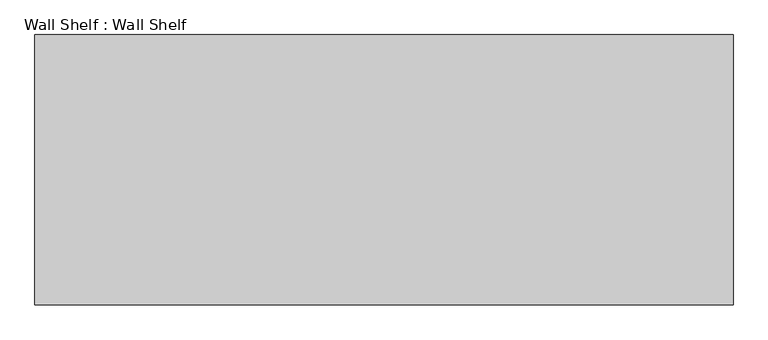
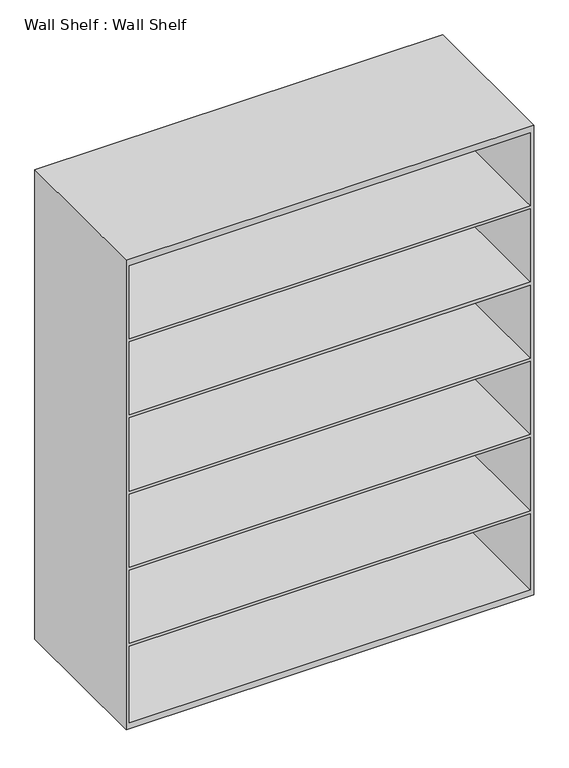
"""IFC4 building model written with IfcOpenShell, lengths in millimetres: furniture geometry, Wall Shelf : Wall Shelf."""

from ifc_helpers import new_model, si_unit, frame, origin, place, context, project, spatial, circle_curve, source, transform, mapped, element, save
from ifc_brep_helpers import plane_surface, cylinder_surface, advanced_brep


def wall_shelf_wall_shelf_2fd7ae0d(model_context):
    return source(origin(), model_context, "Body", "AdvancedBrep", [
        advanced_brep(
        [(787.4, 304.8, 1930.4), (-787.4, 304.8, 1930.4), (-787.4, -304.8, 1930.4), (787.4, -304.8, 1930.4), (774.7, -304.8, 1905.0), (-774.7, -304.8, 1905.0), (-774.7, 292.1, 1905.0), (774.7, 292.1, 1905.0), (787.4, 304.8, 38.1), (787.4, 304.8, 12.7), (-787.4, 304.8, 12.7), (-787.4, 304.8, 38.1), (-787.4, -304.8, 12.7), (787.4, -304.8, 12.7), (774.7, -304.8, 1606.55), (-774.7, -304.8, 1606.55), (774.7, -304.8, 38.1), (-774.7, -304.8, 38.1), (-774.7, -304.8, 349.25), (774.7, -304.8, 349.25), (-774.7, -304.8, 1593.85), (774.7, -304.8, 1593.85), (774.7, -304.8, 1295.4), (-774.7, -304.8, 1295.4), (-774.7, -304.8, 1282.7), (774.7, -304.8, 1282.7), (774.7, -304.8, 984.25), (-774.7, -304.8, 984.25), (-774.7, -304.8, 971.55), (774.7, -304.8, 971.55), (774.7, -304.8, 673.1), (-774.7, -304.8, 673.1), (-774.7, -304.8, 660.4), (774.7, -304.8, 660.4), (774.7, -304.8, 361.95), (-774.7, -304.8, 361.95), (-762.0, 254.0, 12.7), (-711.2, 254.0, 12.7), (711.2, 254.0, 12.7), (762.0, 254.0, 12.7), (-762.0, -254.0, 12.7), (-711.2, -254.0, 12.7), (711.2, -254.0, 12.7), (762.0, -254.0, 12.7), (-774.7, 292.1, 1606.55), (-774.7, 292.1, 1295.4), (-774.7, 292.1, 1593.85), (-774.7, 292.1, 984.25), (-774.7, 292.1, 1282.7), (-774.7, 292.1, 673.1), (-774.7, 292.1, 971.55), (-774.7, 292.1, 361.95), (-774.7, 292.1, 660.4), (-774.7, 292.1, 38.1), (-774.7, 292.1, 349.25), (774.7, 292.1, 1606.55), (774.7, 292.1, 1295.4), (774.7, 292.1, 1593.85), (774.7, 292.1, 984.25), (774.7, 292.1, 1282.7), (774.7, 292.1, 673.1), (774.7, 292.1, 971.55), (774.7, 292.1, 361.95), (774.7, 292.1, 660.4), (774.7, 292.1, 38.1), (774.7, 292.1, 349.25), (-762.0, 254.0, 0.0), (-711.2, 254.0, 0.0), (711.2, 254.0, 0.0), (762.0, 254.0, 0.0), (-762.0, -254.0, 0.0), (-711.2, -254.0, 0.0), (711.2, -254.0, 0.0), (762.0, -254.0, 0.0)],
        [
            (0, 1),
            (1, 2),
            (2, 3),
            (3, 0),
            (4, 5),
            (5, 6),
            (6, 7),
            (7, 4),
            (0, 8),
            (8, 9),
            (9, 10),
            (10, 11),
            (11, 1),
            (10, 12),
            (12, 2),
            (12, 13),
            (13, 3),
            (4, 14),
            (14, 15),
            (15, 5),
            (16, 17),
            (17, 18),
            (18, 19),
            (19, 16),
            (20, 21),
            (21, 22),
            (22, 23),
            (23, 20),
            (24, 25),
            (25, 26),
            (26, 27),
            (27, 24),
            (28, 29),
            (29, 30),
            (30, 31),
            (31, 28),
            (32, 33),
            (33, 34),
            (34, 35),
            (35, 32),
            (13, 9),
            (36, 37, circle_curve(frame((-736.6, 254.0, 12.7), z_axis=(0.0, 0.0, 1.0), x_axis=(1.0, 0.0, 0.0)), 25.4)),
            (37, 36, circle_curve(frame((-736.6, 254.0, 12.7), z_axis=(0.0, 0.0, 1.0), x_axis=(1.0, 0.0, 0.0)), 25.4)),
            (38, 39, circle_curve(frame((736.6, 254.0, 12.7), z_axis=(0.0, 0.0, 1.0), x_axis=(1.0, 0.0, 0.0)), 25.4)),
            (39, 38, circle_curve(frame((736.6, 254.0, 12.7), z_axis=(0.0, 0.0, 1.0), x_axis=(1.0, 0.0, 0.0)), 25.4)),
            (40, 41, circle_curve(frame((-736.6, -254.0, 12.7), z_axis=(0.0, 0.0, 1.0), x_axis=(1.0, 0.0, 0.0)), 25.4)),
            (41, 40, circle_curve(frame((-736.6, -254.0, 12.7), z_axis=(0.0, 0.0, 1.0), x_axis=(1.0, 0.0, 0.0)), 25.4)),
            (42, 43, circle_curve(frame((736.6, -254.0, 12.7), z_axis=(0.0, 0.0, 1.0), x_axis=(1.0, 0.0, 0.0)), 25.4)),
            (43, 42, circle_curve(frame((736.6, -254.0, 12.7), z_axis=(0.0, 0.0, 1.0), x_axis=(1.0, 0.0, 0.0)), 25.4)),
            (15, 44),
            (44, 6),
            (23, 45),
            (45, 46),
            (46, 20),
            (27, 47),
            (47, 48),
            (48, 24),
            (31, 49),
            (49, 50),
            (50, 28),
            (35, 51),
            (51, 52),
            (52, 32),
            (17, 53),
            (53, 54),
            (54, 18),
            (44, 55),
            (55, 7),
            (45, 56),
            (56, 57),
            (57, 46),
            (47, 58),
            (58, 59),
            (59, 48),
            (49, 60),
            (60, 61),
            (61, 50),
            (51, 62),
            (62, 63),
            (63, 52),
            (53, 64),
            (64, 65),
            (65, 54),
            (55, 14),
            (21, 57),
            (56, 22),
            (25, 59),
            (58, 26),
            (29, 61),
            (60, 30),
            (33, 63),
            (62, 34),
            (64, 16),
            (19, 65),
            (66, 67, circle_curve(frame((-736.6, 254.0, 0.0), z_axis=(0.0, 0.0, -1.0), x_axis=(1.0, 0.0, 0.0)), 25.4)),
            (67, 66, circle_curve(frame((-736.6, 254.0, 0.0), z_axis=(0.0, 0.0, -1.0), x_axis=(1.0, 0.0, 0.0)), 25.4)),
            (68, 69, circle_curve(frame((736.6, 254.0, 0.0), z_axis=(0.0, 0.0, -1.0), x_axis=(1.0, 0.0, 0.0)), 25.4)),
            (69, 68, circle_curve(frame((736.6, 254.0, 0.0), z_axis=(0.0, 0.0, -1.0), x_axis=(1.0, 0.0, 0.0)), 25.4)),
            (70, 71, circle_curve(frame((-736.6, -254.0, 0.0), z_axis=(0.0, 0.0, -1.0), x_axis=(1.0, 0.0, 0.0)), 25.4)),
            (71, 70, circle_curve(frame((-736.6, -254.0, 0.0), z_axis=(0.0, 0.0, -1.0), x_axis=(1.0, 0.0, 0.0)), 25.4)),
            (72, 73, circle_curve(frame((736.6, -254.0, 0.0), z_axis=(0.0, 0.0, -1.0), x_axis=(1.0, 0.0, 0.0)), 25.4)),
            (73, 72, circle_curve(frame((736.6, -254.0, 0.0), z_axis=(0.0, 0.0, -1.0), x_axis=(1.0, 0.0, 0.0)), 25.4)),
            (67, 37),
            (36, 66),
            (69, 39),
            (38, 68),
            (71, 41),
            (40, 70),
            (73, 43),
            (42, 72),
        ],
        [
            plane_surface(frame((-787.4, 304.8, 1930.4), z_axis=(0.0, 0.0, 1.0), x_axis=(-1.0, 0.0, 0.0))),
            plane_surface(frame((-787.4, 304.8, 1905.0), z_axis=(0.0, 0.0, -1.0), x_axis=(1.0, 0.0, 0.0))),
            plane_surface(frame((787.4, 304.8, 1930.4), z_axis=(0.0, 1.0, 0.0), x_axis=(0.0, 0.0, -1.0))),
            plane_surface(frame((-787.4, 304.8, 1930.4), z_axis=(-1.0, 0.0, 0.0), x_axis=(0.0, 0.0, -1.0))),
            plane_surface(frame((-787.4, -304.8, 1930.4), z_axis=(0.0, -1.0, 0.0), x_axis=(0.0, 0.0, -1.0))),
            plane_surface(frame((787.4, -304.8, 1930.4), z_axis=(1.0, 0.0, 0.0), x_axis=(0.0, 0.0, -1.0))),
            plane_surface(frame((-787.4, 304.8, 12.7), z_axis=(0.0, 0.0, -1.0), x_axis=(1.0, 0.0, 0.0))),
            plane_surface(frame((-774.7, -304.8, 1930.4), z_axis=(1.0, 0.0, 0.0), x_axis=(0.0, 0.0, -1.0))),
            plane_surface(frame((-774.7, 292.1, 1930.4), z_axis=(0.0, -1.0, 0.0), x_axis=(0.0, 0.0, -1.0))),
            plane_surface(frame((774.7, 292.1, 1930.4), z_axis=(-1.0, 0.0, 0.0), x_axis=(0.0, 0.0, -1.0))),
            plane_surface(frame((-787.4, 304.8, 38.1), z_axis=(0.0, 0.0, 1.0), x_axis=(-1.0, 0.0, 0.0))),
            plane_surface(frame((774.7, -304.8, 1606.55), z_axis=(0.0, 0.0, 1.0), x_axis=(0.0, 1.0, 0.0))),
            plane_surface(frame((-774.7, -304.8, 1593.85), z_axis=(0.0, 0.0, -1.0), x_axis=(0.0, 1.0, 0.0))),
            plane_surface(frame((774.7, -304.8, 1295.4), z_axis=(0.0, 0.0, 1.0), x_axis=(0.0, 1.0, 0.0))),
            plane_surface(frame((-774.7, -304.8, 1282.7), z_axis=(0.0, 0.0, -1.0), x_axis=(0.0, 1.0, 0.0))),
            plane_surface(frame((774.7, -304.8, 984.25), z_axis=(0.0, 0.0, 1.0), x_axis=(0.0, 1.0, 0.0))),
            plane_surface(frame((-774.7, -304.8, 971.55), z_axis=(0.0, 0.0, -1.0), x_axis=(0.0, 1.0, 0.0))),
            plane_surface(frame((774.7, -304.8, 673.1), z_axis=(0.0, 0.0, 1.0), x_axis=(0.0, 1.0, 0.0))),
            plane_surface(frame((-774.7, -304.8, 660.4), z_axis=(0.0, 0.0, -1.0), x_axis=(0.0, 1.0, 0.0))),
            plane_surface(frame((774.7, -304.8, 361.95), z_axis=(0.0, 0.0, 1.0), x_axis=(0.0, 1.0, 0.0))),
            plane_surface(frame((-774.7, -304.8, 349.25), z_axis=(0.0, 0.0, -1.0), x_axis=(0.0, 1.0, 0.0))),
            plane_surface(frame((-711.2, 254.0, 0.0), z_axis=(0.0, 0.0, -1.0), x_axis=(0.0, -1.0, 0.0))),
            cylinder_surface(frame((-736.6, 254.0, 0.0), z_axis=(0.0, 0.0, 1.0), x_axis=(1.0, 0.0, 0.0)), 25.4),
            cylinder_surface(frame((736.6, 254.0, 0.0), z_axis=(0.0, 0.0, 1.0), x_axis=(1.0, 0.0, 0.0)), 25.4),
            cylinder_surface(frame((-736.6, -254.0, 0.0), z_axis=(0.0, 0.0, 1.0), x_axis=(1.0, 0.0, 0.0)), 25.4),
            cylinder_surface(frame((736.6, -254.0, 0.0), z_axis=(0.0, 0.0, 1.0), x_axis=(1.0, 0.0, 0.0)), 25.4),
        ],
        [
            (0, [[1, 2, 3, 4]]),
            (1, [[5, 6, 7, 8]]),
            (2, [[-1, 9, 10, 11, 12, 13]]),
            (3, [[-2, -13, -12, 14, 15]]),
            (4, [[-3, -15, 16, 17], [-5, 18, 19, 20], [21, 22, 23, 24], [25, 26, 27, 28], [29, 30, 31, 32], [33, 34, 35, 36], [37, 38, 39, 40]]),
            (5, [[-4, -17, 41, -10, -9]]),
            (6, [[-41, -16, -14, -11], [42, 43], [44, 45], [46, 47], [48, 49]]),
            (7, [[-6, -20, 50, 51]]),
            (7, [[-28, 52, 53, 54]]),
            (7, [[-32, 55, 56, 57]]),
            (7, [[-36, 58, 59, 60]]),
            (7, [[-40, 61, 62, 63]]),
            (7, [[64, 65, 66, -22]]),
            (8, [[-7, -51, 67, 68]]),
            (8, [[-53, 69, 70, 71]]),
            (8, [[-56, 72, 73, 74]]),
            (8, [[-59, 75, 76, 77]]),
            (8, [[-62, 78, 79, 80]]),
            (8, [[81, 82, 83, -65]]),
            (9, [[-8, -68, 84, -18]]),
            (9, [[-26, 85, -70, 86]]),
            (9, [[-30, 87, -73, 88]]),
            (9, [[-34, 89, -76, 90]]),
            (9, [[-38, 91, -79, 92]]),
            (9, [[93, -24, 94, -82]]),
            (10, [[-21, -93, -81, -64]]),
            (11, [[-19, -84, -67, -50]]),
            (12, [[-25, -54, -71, -85]]),
            (13, [[-27, -86, -69, -52]]),
            (14, [[-29, -57, -74, -87]]),
            (15, [[-31, -88, -72, -55]]),
            (16, [[-33, -60, -77, -89]]),
            (17, [[-35, -90, -75, -58]]),
            (18, [[-37, -63, -80, -91]]),
            (19, [[-39, -92, -78, -61]]),
            (20, [[-23, -66, -83, -94]]),
            (21, [[95, 96]]),
            (21, [[97, 98]]),
            (21, [[99, 100]]),
            (21, [[101, 102]]),
            (22, [[-96, 103, -42, 104]]),
            (22, [[-95, -104, -43, -103]]),
            (23, [[-98, 105, -44, 106]]),
            (23, [[-97, -106, -45, -105]]),
            (24, [[-100, 107, -46, 108]]),
            (24, [[-99, -108, -47, -107]]),
            (25, [[-102, 109, -48, 110]]),
            (25, [[-101, -110, -49, -109]]),
        ],
    ),
    ])


if __name__ == "__main__":
    model = new_model("IFC4")
    model_context = context("Model", 3, world=origin())
    ifc_project = project(units=[si_unit("LENGTHUNIT", "METRE", prefix="MILLI")], contexts=[model_context])
    site = spatial("IfcSite", under=ifc_project)
    building = spatial("IfcBuilding", under=site)
    placement = place(None, origin())
    wall_shelf_wall_shelf_shape = wall_shelf_wall_shelf_2fd7ae0d(model_context)
    element("IfcFurniture", 1, ObjectType="Wall Shelf : Wall Shelf", at=placement, inside=building, context=model_context, shape_type="MappedRepresentation", body=[
        mapped(wall_shelf_wall_shelf_shape, transform((0.0, 0.0, 0.0), x_axis=(1.0, 0.0, 0.0), y_axis=(0.0, 1.0, 0.0), z_axis=(0.0, 0.0, 1.0))),
    ])
    save(model, "model.ifc")
